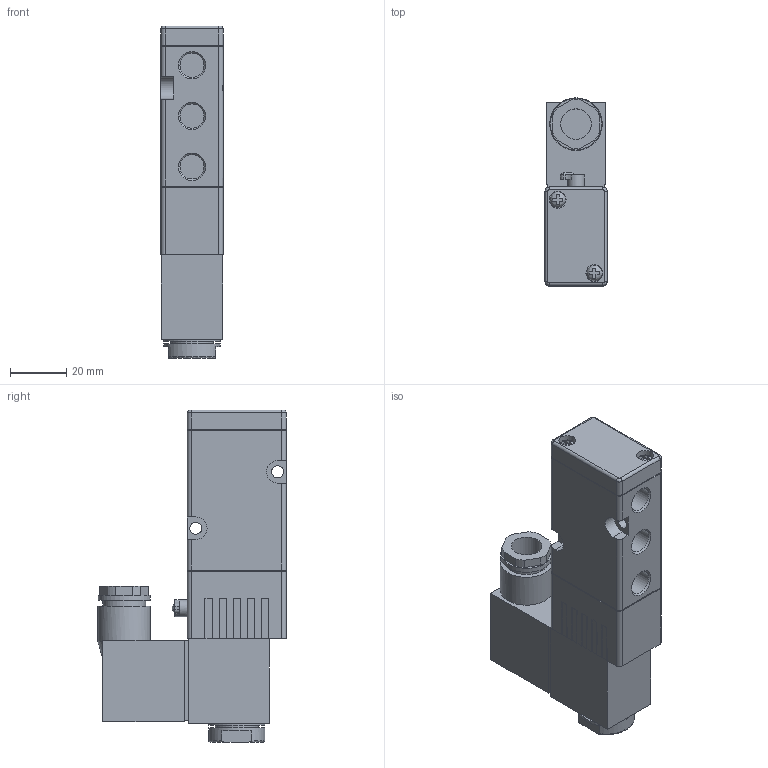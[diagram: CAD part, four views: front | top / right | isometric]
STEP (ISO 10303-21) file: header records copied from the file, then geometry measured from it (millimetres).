
FILE_DESCRIPTION(/* description */ ('STEP AP214'),/* implementation_level */ '2;1');
FILE_NAME(/* name */ '86-MN-4-18-510-M42.stp',/* time_stamp */ '2026-01-15T14:06:40+01:00',/* author */ ('Tschernatsch'),/* organization */ ('CADENAS'),/* preprocessor_version */ 'ST-DEVELOPER v20',/* originating_system */ 'Autodesk Inventor 2024',/* authorisation */ ' ');
FILE_SCHEMA (('AUTOMOTIVE_DESIGN { 1 0 10303 214 3 1 1 }'));
Length unit declared in the file: millimetre
Products named in the file (1): J4V210-06B-DC24V
Bounding box: 22 x 66.7 x 117.6 mm (x, y, z)
Volume: 99812.4 mm3; surface area: 21319.6 mm2
Topology: 1 solids, 1 shells, 263 faces, 651 edges, 409 vertices
Faces by surface type: plane 186, cylinder 51, cone 18, bspline 6, torus 2
Full cylindrical faces by diameter (mm): 4.3 x2, 5.5 x2, 6 x3, 8.566 x3, 10.8 x1, 14.4 x2, 15.2 x2, 18 x2, 18.4 x1, 18.6 x1, 20 x2
Entity records: 8181 total; most frequent: CARTESIAN_POINT 1591, ORIENTED_EDGE 1302, DIRECTION 1277, EDGE_CURVE 651, LINE 471, VECTOR 471, VERTEX_POINT 409, AXIS2_PLACEMENT_3D 403
